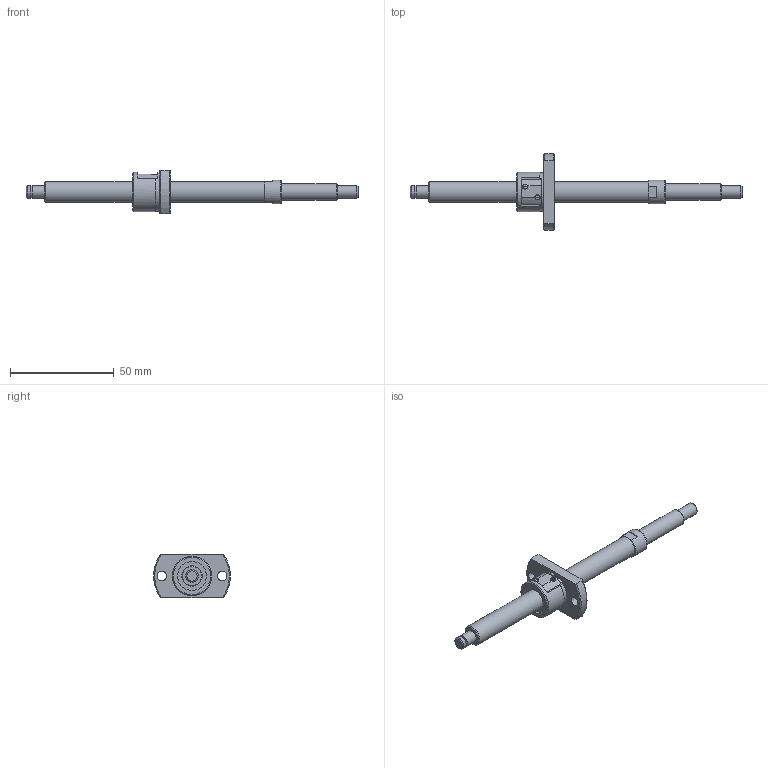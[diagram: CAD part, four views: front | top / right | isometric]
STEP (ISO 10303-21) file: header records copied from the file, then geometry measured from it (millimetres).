
FILE_DESCRIPTION(/* description */ ('STEP AP214'),/* implementation_level */ '2;1');
FILE_NAME(/* name */ 'SG1001-103R160C5B0X(42.5)',/* time_stamp */ '2026-07-24T15:10:16+02:00',/* author */ ('License CC BY-ND 4.0'),/* organization */ ('CADENAS'),/* preprocessor_version */ 'ST-DEVELOPER v20',/* originating_system */ 'PARTsolutions',/* authorisation */ ' ');
FILE_SCHEMA (('AUTOMOTIVE_DESIGN {1 0 10303 214 3 1 1}'));
Length unit declared in the file: millimetre
Products named in the file (3): SG1001-103R160C5B0X(42.5); SG1001-103R160C5B_shaft; SG1001 C5_nut
Assembly tree (2 placements, depth 2):
  SG1001-103R160C5B0X(42.5)
    SG1001-103R160C5B_shaft
    SG1001 C5_nut
Bounding box: 160 x 36.86 x 21 mm (x, y, z)
Volume: 16508.5 mm3; surface area: 8118.5 mm2
Topology: 2 solids, 2 shells, 81 faces, 194 edges, 127 vertices
Faces by surface type: plane 38, cylinder 28, cone 14, torus 1
Full cylindrical faces by diameter (mm): 4.5 x2, 5.7 x1, 6 x3, 8 x1, 10 x2, 11.5 x1, 14 x2, 18.5 x1, 19 x1
Entity records: 2265 total; most frequent: CARTESIAN_POINT 428, DIRECTION 382, ORIENTED_EDGE 318, AXIS2_PLACEMENT_3D 161, EDGE_CURVE 159, EDGE_LOOP 122, FACE_BOUND 122, VERTEX_POINT 117
